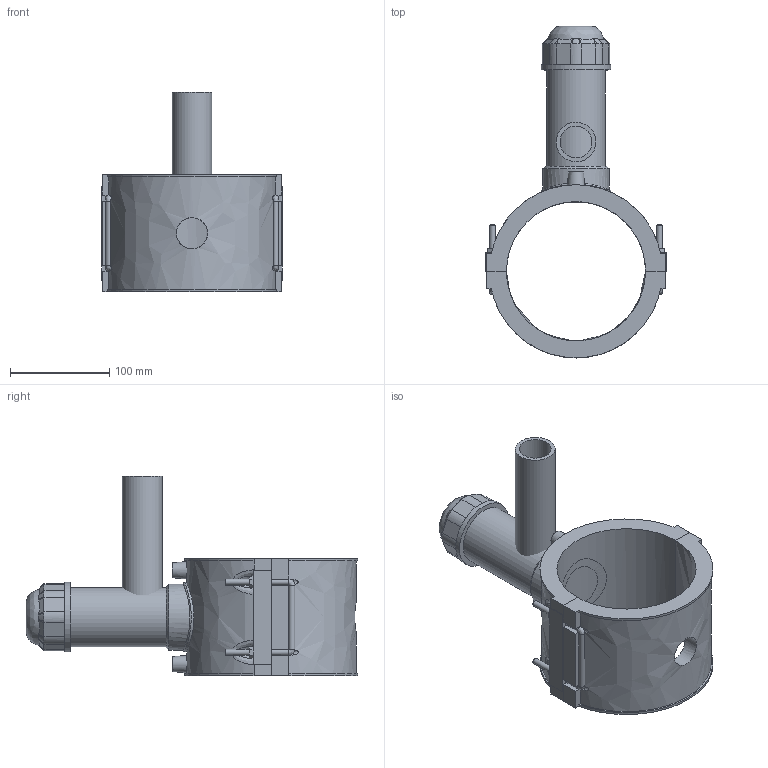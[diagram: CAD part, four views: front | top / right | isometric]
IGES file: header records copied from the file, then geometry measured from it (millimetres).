
Global section: file name: 4963P4140040; native system: Autodesk Inventor 2019; preprocessor: unknown; author: KIM; date: 20220317.112924; units: millimetre
Bounding box: 182 x 334.11 x 201 mm (x, y, z)
Volume: 1290986.2 mm3; surface area: 251130.1 mm2
Topology: 3 solids, 5 shells, 217 faces, 549 edges, 349 vertices
Faces by surface type: bspline 217
